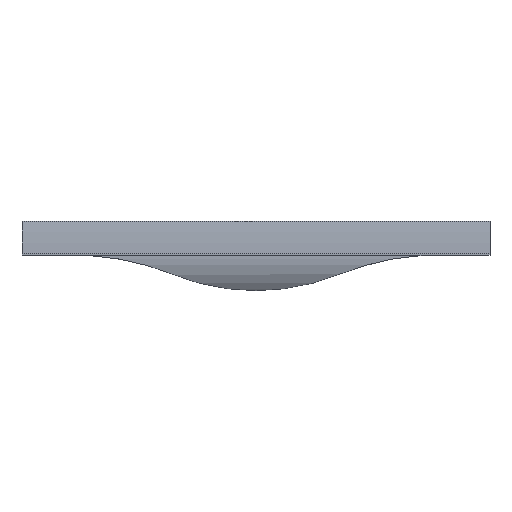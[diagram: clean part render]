
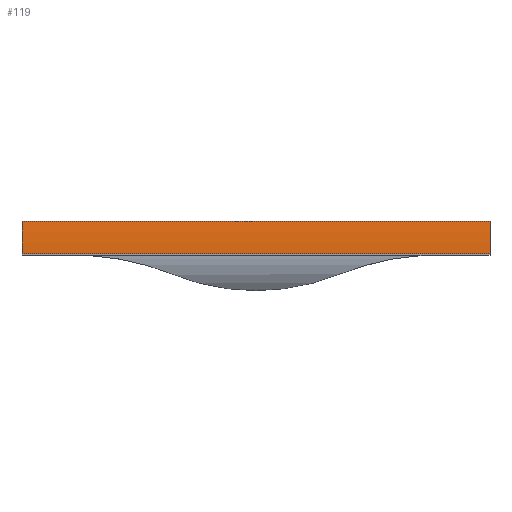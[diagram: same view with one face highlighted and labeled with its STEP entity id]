
A CAD part, top view. The second image highlights one B-rep face of the part: STEP entity #119.
In plain terms, the highlighted cylindrical face has radius 176.85 mm (diameter 353.7 mm), a partial arc.
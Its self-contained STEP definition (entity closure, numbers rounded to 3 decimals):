
#119 = ADVANCED_FACE( '', ( #235 ), #236, .T. );
#235 = FACE_OUTER_BOUND( '', #346, .T. );
#236 = CYLINDRICAL_SURFACE( '', #347, 176.85 );
#346 = EDGE_LOOP( '', ( #574, #575, #576, #577 ) );
#347 = AXIS2_PLACEMENT_3D( '', #578, #579, #580 );
#574 = ORIENTED_EDGE( '', *, *, #783, .T. );
#575 = ORIENTED_EDGE( '', *, *, #744, .F. );
#576 = ORIENTED_EDGE( '', *, *, #784, .F. );
#577 = ORIENTED_EDGE( '', *, *, #785, .T. );
#578 = CARTESIAN_POINT( '', ( 147.5, -11., -173.85 ) );
#579 = DIRECTION( '', ( 1., 0., 0. ) );
#580 = DIRECTION( '', ( 0., 0., 1. ) );
#744 = EDGE_CURVE( '', #904, #906, #907, .T. );
#783 = EDGE_CURVE( '', #958, #906, #959, .T. );
#784 = EDGE_CURVE( '', #960, #904, #961, .T. );
#785 = EDGE_CURVE( '', #960, #958, #962, .T. );
#904 = VERTEX_POINT( '', #1164 );
#906 = VERTEX_POINT( '', #1167 );
#907 = LINE( '', #1168, #1169 );
#958 = VERTEX_POINT( '', #1275 );
#959 = CIRCLE( '', #1276, 176.85 );
#960 = VERTEX_POINT( '', #1277 );
#961 = CIRCLE( '', #1278, 176.85 );
#962 = LINE( '', #1279, #1280 );
#1164 = CARTESIAN_POINT( '', ( 147.5, -11., 3. ) );
#1167 = CARTESIAN_POINT( '', ( -147.5, -11., 3. ) );
#1168 = CARTESIAN_POINT( '', ( 147.5, -11., 3. ) );
#1169 = VECTOR( '', #1356, 1000. );
#1275 = CARTESIAN_POINT( '', ( -147.5, 9.5, 1.808 ) );
#1276 = AXIS2_PLACEMENT_3D( '', #1384, #1385, #1386 );
#1277 = CARTESIAN_POINT( '', ( 147.5, 9.5, 1.808 ) );
#1278 = AXIS2_PLACEMENT_3D( '', #1387, #1388, #1389 );
#1279 = CARTESIAN_POINT( '', ( 147.5, 9.5, 1.808 ) );
#1280 = VECTOR( '', #1390, 1000. );
#1356 = DIRECTION( '', ( -1., 0., 0. ) );
#1384 = CARTESIAN_POINT( '', ( -147.5, -11., -173.85 ) );
#1385 = DIRECTION( '', ( 1., 0., 0. ) );
#1386 = DIRECTION( '', ( 0., 0., -1. ) );
#1387 = CARTESIAN_POINT( '', ( 147.5, -11., -173.85 ) );
#1388 = DIRECTION( '', ( 1., 0., 0. ) );
#1389 = DIRECTION( '', ( 0., 0., -1. ) );
#1390 = DIRECTION( '', ( -1., 0., 0. ) );
